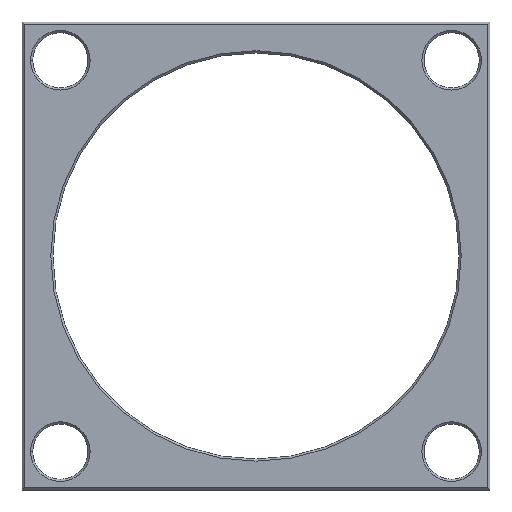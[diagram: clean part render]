
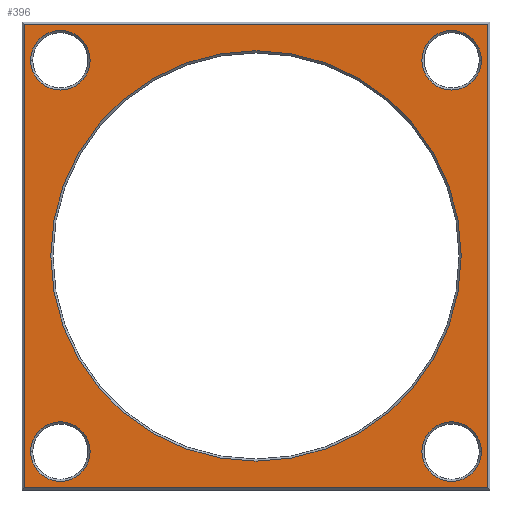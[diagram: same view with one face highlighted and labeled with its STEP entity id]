
A CAD part, top view. The second image highlights one B-rep face of the part: STEP entity #396.
In plain terms, the highlighted planar face has unit normal (0, 0, 1).
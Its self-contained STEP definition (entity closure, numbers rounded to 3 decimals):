
#242=CARTESIAN_POINT('Vertex',(-48.25,0.,9.)) ;
#245=CARTESIAN_POINT('Axis2P3D Location',(0.,0.,9.)) ;
#249=CARTESIAN_POINT('Vertex',(48.25,0.,9.)) ;
#269=CARTESIAN_POINT('Axis2P3D Location',(0.,0.,9.)) ;
#281=CARTESIAN_POINT('Axis2P3D Location',(0.,0.,9.)) ;
#286=CARTESIAN_POINT('Line Origine',(-54.5,0.,9.)) ;
#290=CARTESIAN_POINT('Vertex',(-54.5,54.5,9.)) ;
#292=CARTESIAN_POINT('Vertex',(-54.5,-54.5,9.)) ;
#295=CARTESIAN_POINT('Line Origine',(0.,-54.5,9.)) ;
#299=CARTESIAN_POINT('Vertex',(54.5,-54.5,9.)) ;
#302=CARTESIAN_POINT('Line Origine',(54.5,0.,9.)) ;
#306=CARTESIAN_POINT('Vertex',(54.5,54.5,9.)) ;
#309=CARTESIAN_POINT('Line Origine',(0.,54.5,9.)) ;
#320=CARTESIAN_POINT('Axis2P3D Location',(-46.,-46.,9.)) ;
#324=CARTESIAN_POINT('Vertex',(-39.,-46.,9.)) ;
#326=CARTESIAN_POINT('Vertex',(-53.,-46.,9.)) ;
#329=CARTESIAN_POINT('Axis2P3D Location',(-46.,-46.,9.)) ;
#338=CARTESIAN_POINT('Axis2P3D Location',(46.,-46.,9.)) ;
#342=CARTESIAN_POINT('Vertex',(53.,-46.,9.)) ;
#344=CARTESIAN_POINT('Vertex',(39.,-46.,9.)) ;
#347=CARTESIAN_POINT('Axis2P3D Location',(46.,-46.,9.)) ;
#356=CARTESIAN_POINT('Axis2P3D Location',(-46.,46.,9.)) ;
#360=CARTESIAN_POINT('Vertex',(-39.,46.,9.)) ;
#362=CARTESIAN_POINT('Vertex',(-53.,46.,9.)) ;
#365=CARTESIAN_POINT('Axis2P3D Location',(-46.,46.,9.)) ;
#374=CARTESIAN_POINT('Axis2P3D Location',(46.,46.,9.)) ;
#378=CARTESIAN_POINT('Vertex',(53.,46.,9.)) ;
#380=CARTESIAN_POINT('Vertex',(39.,46.,9.)) ;
#383=CARTESIAN_POINT('Axis2P3D Location',(46.,46.,9.)) ;
#246=DIRECTION('Axis2P3D Direction',(0.,0.,1.)) ;
#270=DIRECTION('Axis2P3D Direction',(0.,0.,1.)) ;
#282=DIRECTION('Axis2P3D Direction',(0.,0.,1.)) ;
#283=DIRECTION('Axis2P3D XDirection',(1.,0.,0.)) ;
#287=DIRECTION('Vector Direction',(0.,-1.,0.)) ;
#296=DIRECTION('Vector Direction',(-1.,0.,0.)) ;
#303=DIRECTION('Vector Direction',(0.,1.,0.)) ;
#310=DIRECTION('Vector Direction',(1.,0.,0.)) ;
#321=DIRECTION('Axis2P3D Direction',(0.,0.,1.)) ;
#330=DIRECTION('Axis2P3D Direction',(0.,0.,1.)) ;
#339=DIRECTION('Axis2P3D Direction',(0.,0.,1.)) ;
#348=DIRECTION('Axis2P3D Direction',(0.,0.,1.)) ;
#357=DIRECTION('Axis2P3D Direction',(0.,0.,1.)) ;
#366=DIRECTION('Axis2P3D Direction',(0.,0.,1.)) ;
#375=DIRECTION('Axis2P3D Direction',(0.,0.,1.)) ;
#384=DIRECTION('Axis2P3D Direction',(0.,0.,1.)) ;
#247=AXIS2_PLACEMENT_3D('Circle Axis2P3D',#245,#246,$) ;
#271=AXIS2_PLACEMENT_3D('Circle Axis2P3D',#269,#270,$) ;
#284=AXIS2_PLACEMENT_3D('Plane Axis2P3D',#281,#282,#283) ;
#322=AXIS2_PLACEMENT_3D('Circle Axis2P3D',#320,#321,$) ;
#331=AXIS2_PLACEMENT_3D('Circle Axis2P3D',#329,#330,$) ;
#340=AXIS2_PLACEMENT_3D('Circle Axis2P3D',#338,#339,$) ;
#349=AXIS2_PLACEMENT_3D('Circle Axis2P3D',#347,#348,$) ;
#358=AXIS2_PLACEMENT_3D('Circle Axis2P3D',#356,#357,$) ;
#367=AXIS2_PLACEMENT_3D('Circle Axis2P3D',#365,#366,$) ;
#376=AXIS2_PLACEMENT_3D('Circle Axis2P3D',#374,#375,$) ;
#385=AXIS2_PLACEMENT_3D('Circle Axis2P3D',#383,#384,$) ;
#315=ORIENTED_EDGE('',*,*,#294,.T.) ;
#316=ORIENTED_EDGE('',*,*,#301,.T.) ;
#317=ORIENTED_EDGE('',*,*,#308,.T.) ;
#318=ORIENTED_EDGE('',*,*,#313,.T.) ;
#335=ORIENTED_EDGE('',*,*,#328,.F.) ;
#336=ORIENTED_EDGE('',*,*,#333,.F.) ;
#353=ORIENTED_EDGE('',*,*,#346,.F.) ;
#354=ORIENTED_EDGE('',*,*,#351,.F.) ;
#371=ORIENTED_EDGE('',*,*,#364,.F.) ;
#372=ORIENTED_EDGE('',*,*,#369,.F.) ;
#389=ORIENTED_EDGE('',*,*,#382,.F.) ;
#390=ORIENTED_EDGE('',*,*,#387,.F.) ;
#393=ORIENTED_EDGE('',*,*,#273,.F.) ;
#394=ORIENTED_EDGE('',*,*,#251,.F.) ;
#337=FACE_BOUND('',#334,.T.) ;
#355=FACE_BOUND('',#352,.T.) ;
#373=FACE_BOUND('',#370,.T.) ;
#391=FACE_BOUND('',#388,.T.) ;
#395=FACE_BOUND('',#392,.T.) ;
#288=VECTOR('Line Direction',#287,1.) ;
#297=VECTOR('Line Direction',#296,1.) ;
#304=VECTOR('Line Direction',#303,1.) ;
#311=VECTOR('Line Direction',#310,1.) ;
#396=ADVANCED_FACE('',(#319,#337,#355,#373,#391,#395),#285,.T.) ;
#248=CIRCLE('generated circle',#247,48.25) ;
#272=CIRCLE('generated circle',#271,48.25) ;
#323=CIRCLE('generated circle',#322,7.) ;
#332=CIRCLE('generated circle',#331,7.) ;
#341=CIRCLE('generated circle',#340,7.) ;
#350=CIRCLE('generated circle',#349,7.) ;
#359=CIRCLE('generated circle',#358,7.) ;
#368=CIRCLE('generated circle',#367,7.) ;
#377=CIRCLE('generated circle',#376,7.) ;
#386=CIRCLE('generated circle',#385,7.) ;
#251=EDGE_CURVE('',#243,#250,#248,.T.) ;
#273=EDGE_CURVE('',#250,#243,#272,.T.) ;
#294=EDGE_CURVE('',#291,#293,#289,.T.) ;
#301=EDGE_CURVE('',#293,#300,#298,.F.) ;
#308=EDGE_CURVE('',#300,#307,#305,.T.) ;
#313=EDGE_CURVE('',#307,#291,#312,.F.) ;
#328=EDGE_CURVE('',#325,#327,#323,.T.) ;
#333=EDGE_CURVE('',#327,#325,#332,.T.) ;
#346=EDGE_CURVE('',#343,#345,#341,.T.) ;
#351=EDGE_CURVE('',#345,#343,#350,.T.) ;
#364=EDGE_CURVE('',#361,#363,#359,.T.) ;
#369=EDGE_CURVE('',#363,#361,#368,.T.) ;
#382=EDGE_CURVE('',#379,#381,#377,.T.) ;
#387=EDGE_CURVE('',#381,#379,#386,.T.) ;
#314=EDGE_LOOP('',(#315,#316,#317,#318)) ;
#334=EDGE_LOOP('',(#335,#336)) ;
#352=EDGE_LOOP('',(#353,#354)) ;
#370=EDGE_LOOP('',(#371,#372)) ;
#388=EDGE_LOOP('',(#389,#390)) ;
#392=EDGE_LOOP('',(#393,#394)) ;
#319=FACE_OUTER_BOUND('',#314,.T.) ;
#289=LINE('Line',#286,#288) ;
#298=LINE('Line',#295,#297) ;
#305=LINE('Line',#302,#304) ;
#312=LINE('Line',#309,#311) ;
#285=PLANE('Plane',#284) ;
#243=VERTEX_POINT('',#242) ;
#250=VERTEX_POINT('',#249) ;
#291=VERTEX_POINT('',#290) ;
#293=VERTEX_POINT('',#292) ;
#300=VERTEX_POINT('',#299) ;
#307=VERTEX_POINT('',#306) ;
#325=VERTEX_POINT('',#324) ;
#327=VERTEX_POINT('',#326) ;
#343=VERTEX_POINT('',#342) ;
#345=VERTEX_POINT('',#344) ;
#361=VERTEX_POINT('',#360) ;
#363=VERTEX_POINT('',#362) ;
#379=VERTEX_POINT('',#378) ;
#381=VERTEX_POINT('',#380) ;
